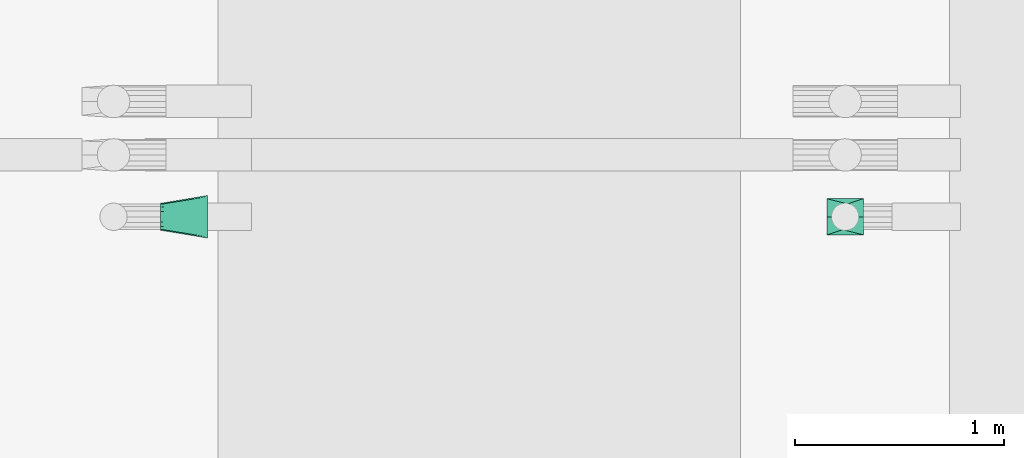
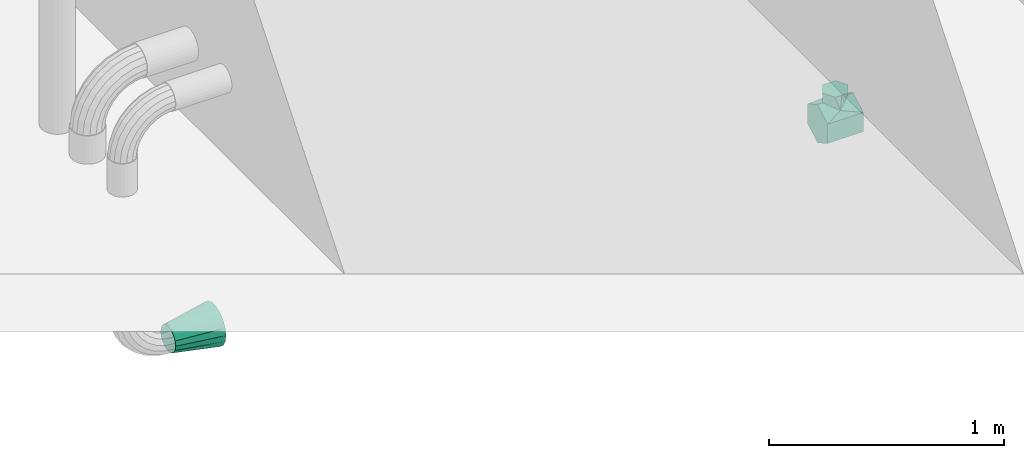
# One storey, part 22 of 23: 2 flow fittings.
"""IFC2X3 building model written with IfcOpenShell, lengths in millimetres."""

from ifc_helpers import new_model, entity, si_unit, converted_unit, direction, frame, origin, place, context, subcontext, project, spatial, faceted_brep, source, transform, mapped, material, type_object, type_shapes, element, save


model = new_model("IFC2X3")

# Units and contexts
model_context = context("Model", 3, precision=0.01, world=origin(), true_north=direction((6.123031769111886e-17, 1.0)))
body_context = subcontext(model_context, "Body", "Model", "MODEL_VIEW")
ifc_project = project(units=[si_unit("LENGTHUNIT", "METRE", prefix="MILLI"), converted_unit("PLANEANGLEUNIT", "DEGREE", entity("IfcPlaneAngleMeasure", 0.017453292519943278), si_unit("PLANEANGLEUNIT", "RADIAN"), dimensions=[0, 0, 0, 0, 0, 0, 0]), si_unit("AREAUNIT", "SQUARE_METRE")], contexts=[model_context])

# Site, building, storey
site_placement = place(None, frame((7776.576483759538, 118.3519876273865, 0.0)))
site = spatial("IfcSite", under=ifc_project, at=site_placement, Name="Default", CompositionType="ELEMENT")
building_placement = place(site_placement, origin())
building = spatial("IfcBuilding", under=site, at=building_placement, Name="Bygning (endres i Project Information)", CompositionType="ELEMENT")
storey_placement = place(building_placement, frame((0.0, 0.0, 19000.0)))
storey = spatial("IfcBuildingStorey", under=building, at=storey_placement, Name="Plan 01", CompositionType="ELEMENT", Elevation=19000.0)

# Flow fittings
ifc_material_1 = material(Name="DF_Material1")
pipe_fitting_type_1 = type_object("IfcPipeFittingType", Name="VA_prosess_rustfritt_vinklet_innsveising:VA_prosess_rustfritt_vinklet_innsveising", PredefinedType="NOTDEFINED", material=ifc_material_1)
shared_shape_1 = source(origin(), body_context, "Body", "Brep", [
    faceted_brep([(87.60000000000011, 50.05000000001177, -86.68914291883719), (87.60000000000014, 76.27483597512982, -41.26639458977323), (87.60000000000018, 100.10000000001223, 0.0), (87.60000000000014, 75.07500000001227, 43.34457145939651), (87.60000000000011, 50.05000000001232, 86.68914291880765), (87.60000000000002, 0.0, 86.68914291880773), (87.59999999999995, -50.049999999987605, 86.6891429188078), (87.59999999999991, -75.07499999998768, 43.344571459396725), (87.59999999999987, -100.09999999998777, 0.0), (87.59999999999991, -75.07499999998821, -43.344571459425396), (87.59999999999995, -50.04999999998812, -86.68914291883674), (87.60000000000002, 0.0, -86.68914291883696), (-87.59999999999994, 50.0500000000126, 86.68914291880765), (-87.59999999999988, 75.07500000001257, 43.34457145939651), (-87.59999999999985, 100.10000000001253, 0.0), (-87.59999999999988, 75.07500000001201, -43.34457145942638), (-87.59999999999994, 50.050000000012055, -86.68914291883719), (-87.60000000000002, 0.0, -86.68914291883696), (-87.60000000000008, -50.049999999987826, -86.68914291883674), (-87.60000000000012, -75.07499999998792, -43.34457145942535), (-87.60000000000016, -100.09999999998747, 0.0), (-87.60000000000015, -88.18741822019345, 20.6331968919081), (-87.60000000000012, -75.07499999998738, 43.34457145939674), (-87.60000000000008, -50.04999999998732, 86.6891429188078), (-87.60000000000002, 0.0, 86.68914291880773), (62.600000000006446, -100.09999999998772, 0.0), (25.72032974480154, -89.50180883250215, -30.79865711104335), (-11.159340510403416, -78.90361766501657, -61.59731422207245), (-36.87967025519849, -89.50180883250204, -30.798657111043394), (-62.59999999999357, -100.09999999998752, 0.0), (-15.77508028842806, -86.64385837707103, 39.10396581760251), (11.15947842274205, -78.90363717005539, 61.59728923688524), (36.87973921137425, -89.50181858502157, 30.79864461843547), (-25.720260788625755, -89.50181858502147, 30.798644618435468), (-48.247050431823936, -150.15000000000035, -24.860037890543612), (-31.299999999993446, -150.15000000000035, -54.213190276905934), (0.0, -150.15000000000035, -54.213190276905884), (31.30000000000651, -150.15000000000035, -54.213190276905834), (46.95000000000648, -150.15000000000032, -27.106595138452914), (62.60000000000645, -150.15000000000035, 0.0), (48.24705202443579, -150.15000000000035, 24.86003513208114), (31.30000000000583, -150.15000000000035, 54.213190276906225), (0.0, -150.15000000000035, 54.213190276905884), (-31.299999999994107, -150.15000000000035, 54.21319027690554), (-46.949999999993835, -150.15000000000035, 27.106595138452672), (-62.59999999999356, -150.15000000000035, 0.0)], [[[0, 1, 2, 3, 4, 5, 6, 7, 8, 9, 10, 11]], [[12, 13, 14, 15, 16, 17, 18, 19, 20, 21, 22, 23, 24]], [[9, 25, 26, 27]], [[19, 28, 20]], [[16, 0, 11, 10, 18, 17]], [[20, 28, 29]], [[9, 8, 25]], [[19, 18, 27]], [[27, 10, 9]], [[0, 16, 15, 14, 2, 1]], [[19, 27, 28]], [[10, 27, 18]], [[14, 13, 12, 4, 3, 2]], [[30, 22, 21]], [[23, 6, 5, 4, 12, 24]], [[7, 31, 32]], [[6, 23, 31]], [[31, 23, 22]], [[20, 29, 21]], [[8, 32, 25]], [[31, 7, 6]], [[32, 8, 7]], [[21, 29, 33, 30]], [[31, 22, 30]], [[34, 35, 36, 37, 38, 39, 40, 41, 42, 43, 44, 45]], [[29, 44, 33]], [[31, 41, 32]], [[33, 43, 42]], [[42, 31, 30, 33]], [[44, 43, 33]], [[40, 32, 41]], [[40, 39, 25]], [[44, 29, 45]], [[31, 42, 41]], [[40, 25, 32]], [[25, 38, 26]], [[27, 35, 28]], [[34, 29, 28]], [[26, 36, 27]], [[26, 37, 36]], [[38, 25, 39]], [[34, 45, 29]], [[38, 37, 26]], [[27, 36, 35]], [[34, 28, 35]]]),
])
type_shapes(pipe_fitting_type_1, [shared_shape_1])
flow_fitting_1_placement = place(storey_placement, frame((27824.001374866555, 24685.757305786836, -860.0), z_axis=(0.0, -1.0, 0.0), x_axis=(-1.0, 0.0, 0.0)))
element("IfcFlowFitting", 1, at=flow_fitting_1_placement, inside=storey, type_object=pipe_fitting_type_1, material=ifc_material_1, Name="VA_prosess_rustfritt_vinklet_innsveising:VA_prosess_rustfritt_vinklet_innsveising", ObjectType="VA_prosess_rustfritt_vinklet_innsveising:VA_prosess_rustfritt_vinklet_innsveising", context=body_context, shape_type="MappedRepresentation", body=[
    mapped(shared_shape_1, transform((0.0, 0.0, 0.0), scale=1.0)),
])
ifc_material_2 = material(Name="SS 2343 Rustfritt stål, prosessrør, generisk")
pipe_fitting_type_2 = type_object("IfcPipeFittingType", Name="Overganger, konsentriske, rustfritt EN 1,4307304L:Standard", PredefinedType="NOTDEFINED", material=ifc_material_2)
shared_shape_2 = source(origin(), body_context, "Body", "Brep", [
    faceted_brep([(225.0, 51.0, 88.33459118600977), (225.0, 17.712114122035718, 100.45039080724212), (225.0, -17.712114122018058, 100.45039080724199), (225.0, -51.0, 88.33459118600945), (225.0, -78.13653319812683, 65.56433618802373), (225.0, -95.8486473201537, 34.88605461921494), (225.0, -102.0, 0.0), (225.0, -95.84864732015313, -34.88605461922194), (225.0, -78.13653319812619, -65.56433618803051), (225.0, -51.0, -88.33459118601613), (225.0, -17.7121141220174, -100.45039080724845), (225.0, 17.712114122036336, -100.45039080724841), (225.0, 51.0, -88.33459118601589), (225.0, 78.13653319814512, -65.56433618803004), (225.0, 95.84864732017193, -34.88605461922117), (225.0, 102.0, 0.0), (225.0, 95.84864732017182, 34.88605461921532), (225.0, 78.13653319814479, 65.56433618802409), (0.0, -59.59022984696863, -24.683081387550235), (0.0, -62.04511492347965, -12.341540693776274), (0.0, -64.49999999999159, 0.0), (0.0, -62.04511492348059, 12.341540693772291), (0.0, -59.59022984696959, 24.68308138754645), (0.0, -52.59930861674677, 35.14573438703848), (0.0, -45.60838738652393, 45.60838738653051), (0.0, -35.145734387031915, 52.599308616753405), (0.0, -24.683081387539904, 59.5902298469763), (0.0, -12.341540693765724, 62.04511492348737), (0.0, 0.0, 64.49999999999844), (0.0, 12.341540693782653, 62.04511492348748), (0.0, 24.683081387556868, 59.590229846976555), (0.0, 35.14573438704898, 52.59930861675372), (0.0, 45.60838738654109, 45.60838738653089), (0.0, 52.599308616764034, 35.14573438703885), (0.0, 59.590229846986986, 24.683081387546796), (0.0, 62.04511492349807, 12.341540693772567), (0.0, 64.50000000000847, 0.0), (0.0, 62.0451149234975, -12.341540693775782), (0.0, 59.590229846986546, -24.683081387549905), (0.0, 52.59930861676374, -35.1457343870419), (0.0, 45.60838738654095, -45.6083873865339), (0.0, 35.14573438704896, -52.59930861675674), (0.0, 24.683081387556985, -59.59022984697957), (0.0, 12.341540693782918, -62.045114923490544), (0.0, 0.0, -64.50000000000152), (0.0, -12.341540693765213, -62.045114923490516), (0.0, -24.68308138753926, -59.590229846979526), (0.0, -35.145734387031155, -52.59930861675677), (0.0, -45.60838738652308, -45.60838738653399), (0.0, -52.599308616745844, -35.145734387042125)], [[[0, 1, 2, 3, 4, 5, 6, 7, 8, 9, 10, 11, 12, 13, 14, 15, 16, 17]], [[18, 19, 20, 21, 22, 23, 24, 25, 26, 27, 28, 29, 30, 31, 32, 33, 34, 35, 36, 37, 38, 39, 40, 41, 42, 43, 44, 45, 46, 47, 48, 49]], [[14, 37, 15]], [[13, 39, 14]], [[36, 15, 37]], [[14, 38, 37]], [[41, 40, 12, 42]], [[13, 40, 39]], [[38, 14, 39]], [[12, 11, 42]], [[45, 44, 10, 46]], [[49, 48, 8]], [[11, 44, 43, 42]], [[13, 12, 40]], [[19, 18, 7]], [[47, 46, 9, 48]], [[20, 19, 6]], [[18, 49, 7]], [[10, 9, 46]], [[8, 48, 9]], [[7, 49, 8]], [[6, 19, 7]], [[11, 10, 44]], [[5, 21, 6]], [[4, 23, 5]], [[20, 6, 21]], [[5, 22, 21]], [[25, 24, 3, 26]], [[4, 24, 23]], [[22, 5, 23]], [[3, 2, 26]], [[29, 28, 1, 30]], [[33, 32, 17]], [[2, 28, 27, 26]], [[4, 3, 24]], [[35, 34, 16]], [[31, 30, 0, 32]], [[36, 35, 15]], [[34, 33, 16]], [[1, 0, 30]], [[17, 32, 0]], [[16, 33, 17]], [[15, 35, 16]], [[2, 1, 28]]]),
])
type_shapes(pipe_fitting_type_2, [shared_shape_2])
flow_fitting_2_placement = place(storey_placement, frame((24549.001374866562, 24685.757305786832, -860.0)))
element("IfcFlowFitting", 2, at=flow_fitting_2_placement, inside=storey, type_object=pipe_fitting_type_2, material=ifc_material_2, Name="Overganger, konsentriske, rustfritt EN 1,4307304L:Standard", ObjectType="Overganger, konsentriske, rustfritt EN 1,4307304L:Standard", context=body_context, shape_type="MappedRepresentation", body=[
    mapped(shared_shape_2, transform((0.0, 0.0, 0.0), scale=1.0)),
])

save(model, "model.ifc")
